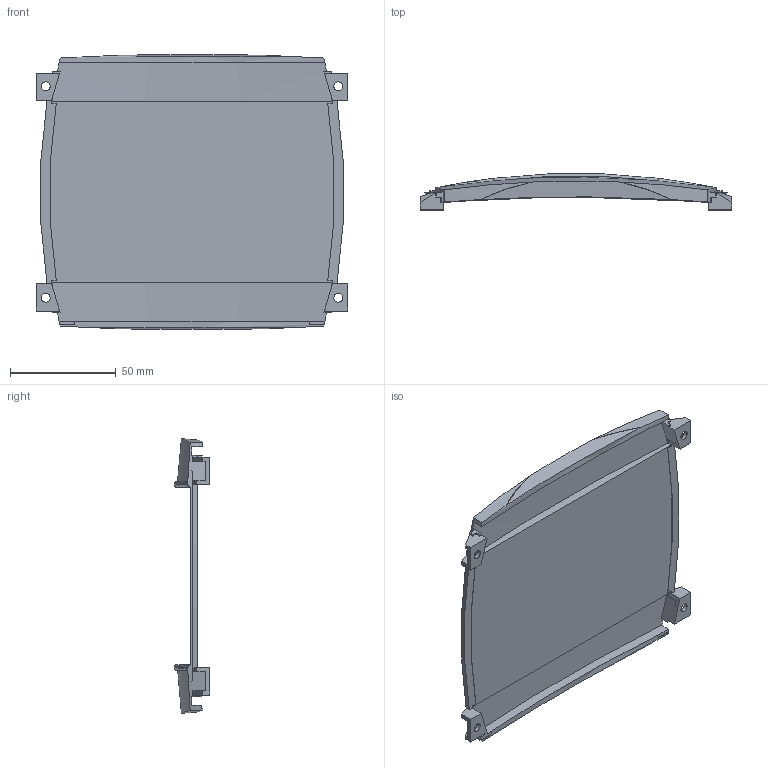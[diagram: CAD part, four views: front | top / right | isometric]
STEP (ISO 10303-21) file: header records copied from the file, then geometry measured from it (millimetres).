
FILE_DESCRIPTION (( 'STEP AP214' ), '1' );
FILE_NAME ('Tapa central PP109.STEP', '2018-03-23T11:54:42', ( 'aaa' ), ( '' ), 'SwSTEP 2.0', 'SolidWorks 2013', '' );
FILE_SCHEMA (( 'AUTOMOTIVE_DESIGN' ));
Length unit declared in the file: millimetre
Products named in the file (1): Tapa central PP109
Bounding box: 147 x 16.84 x 129.61 mm (x, y, z)
Volume: 59802.1 mm3; surface area: 44070 mm2
Topology: 1 solids, 1 shells, 143 faces, 427 edges, 278 vertices
Faces by surface type: plane 90, cylinder 41, bspline 8, torus 4
Entity records: 5210 total; most frequent: CARTESIAN_POINT 1418, ORIENTED_EDGE 854, DIRECTION 721, EDGE_CURVE 427, VERTEX_POINT 278, LINE 259, VECTOR 259, AXIS2_PLACEMENT_3D 231
